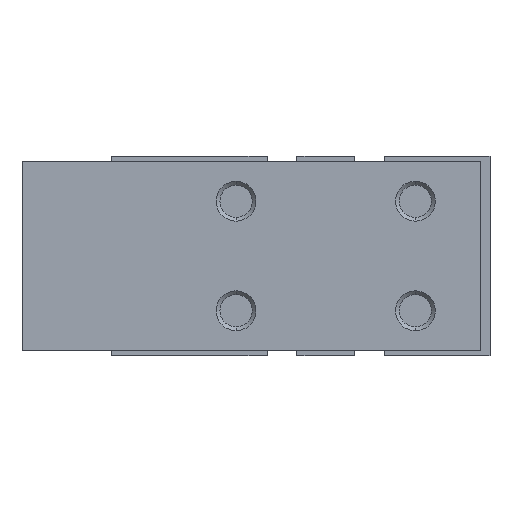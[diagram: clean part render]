
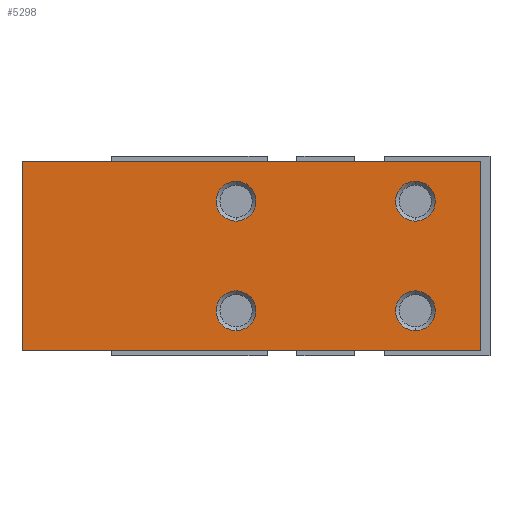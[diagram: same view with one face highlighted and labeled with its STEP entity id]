
A CAD part, left-side view. The second image highlights one B-rep face of the part: STEP entity #5298.
In plain terms, the highlighted planar face has unit normal (-1, 0, 0).
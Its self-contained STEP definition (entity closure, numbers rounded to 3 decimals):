
#53 = ORIENTED_EDGE ( 'NONE', *, *, #450, .F. ) ;
#129 = FACE_BOUND ( 'NONE', #4435, .T. ) ;
#159 = FACE_BOUND ( 'NONE', #2431, .T. ) ;
#177 = CIRCLE ( 'NONE', #2860, 2. ) ;
#191 = EDGE_CURVE ( 'NONE', #383, #5401, #3360, .T. ) ;
#216 = ORIENTED_EDGE ( 'NONE', *, *, #3319, .F. ) ;
#221 = FACE_BOUND ( 'NONE', #1981, .T. ) ;
#233 = CIRCLE ( 'NONE', #4375, 2. ) ;
#265 = AXIS2_PLACEMENT_3D ( 'NONE', #2717, #5567, #5929 ) ;
#383 = VERTEX_POINT ( 'NONE', #4783 ) ;
#450 = EDGE_CURVE ( 'NONE', #2389, #1737, #177, .T. ) ;
#542 = CIRCLE ( 'NONE', #4687, 2. ) ;
#591 = VECTOR ( 'NONE', #613, 1000. ) ;
#599 = CARTESIAN_POINT ( 'NONE',  ( -11.5, 9., -5.5 ) ) ;
#613 = DIRECTION ( 'NONE',  ( 0., 0., -1. ) ) ;
#743 = CIRCLE ( 'NONE', #265, 2. ) ;
#764 = VERTEX_POINT ( 'NONE', #5549 ) ;
#826 = AXIS2_PLACEMENT_3D ( 'NONE', #1092, #5198, #2893 ) ;
#861 = AXIS2_PLACEMENT_3D ( 'NONE', #4309, #3027, #3908 ) ;
#1062 = DIRECTION ( 'NONE',  ( 0., 1., 0. ) ) ;
#1076 = CARTESIAN_POINT ( 'NONE',  ( -11.5, 30.5, -9.5 ) ) ;
#1092 = CARTESIAN_POINT ( 'NONE',  ( -11.5, 9., 5.5 ) ) ;
#1186 = VECTOR ( 'NONE', #2971, 1000. ) ;
#1296 = VECTOR ( 'NONE', #4712, 1000. ) ;
#1309 = LINE ( 'NONE', #4085, #4047 ) ;
#1471 = DIRECTION ( 'NONE',  ( 0., 0., 1. ) ) ;
#1478 = CARTESIAN_POINT ( 'NONE',  ( -11.5, -9., -5.5 ) ) ;
#1485 = EDGE_CURVE ( 'NONE', #5218, #3727, #5164, .T. ) ;
#1511 = DIRECTION ( 'NONE',  ( 1., 0., 0. ) ) ;
#1737 = VERTEX_POINT ( 'NONE', #5038 ) ;
#1981 = EDGE_LOOP ( 'NONE', ( #2830, #2757 ) ) ;
#1985 = DIRECTION ( 'NONE',  ( 0., 0., 1. ) ) ;
#2050 = CARTESIAN_POINT ( 'NONE',  ( -11.5, 30.5, 9.5 ) ) ;
#2056 = CARTESIAN_POINT ( 'NONE',  ( -11.5, 30.5, 9.5 ) ) ;
#2071 = EDGE_CURVE ( 'NONE', #3814, #764, #3339, .T. ) ;
#2186 = CARTESIAN_POINT ( 'NONE',  ( -11.5, 9., -7.5 ) ) ;
#2349 = DIRECTION ( 'NONE',  ( -1., 0., 0. ) ) ;
#2372 = DIRECTION ( 'NONE',  ( -1., 0., 0. ) ) ;
#2389 = VERTEX_POINT ( 'NONE', #3015 ) ;
#2429 = DIRECTION ( 'NONE',  ( -1., 0., 0. ) ) ;
#2431 = EDGE_LOOP ( 'NONE', ( #2982, #53 ) ) ;
#2553 = VERTEX_POINT ( 'NONE', #5436 ) ;
#2625 = EDGE_CURVE ( 'NONE', #3727, #5218, #233, .T. ) ;
#2674 = ORIENTED_EDGE ( 'NONE', *, *, #3568, .T. ) ;
#2695 = ORIENTED_EDGE ( 'NONE', *, *, #1485, .F. ) ;
#2717 = CARTESIAN_POINT ( 'NONE',  ( -11.5, -9., 5.5 ) ) ;
#2733 = DIRECTION ( 'NONE',  ( -1., 0., 0. ) ) ;
#2757 = ORIENTED_EDGE ( 'NONE', *, *, #2071, .F. ) ;
#2798 = EDGE_CURVE ( 'NONE', #2553, #5414, #4254, .T. ) ;
#2830 = ORIENTED_EDGE ( 'NONE', *, *, #5957, .F. ) ;
#2860 = AXIS2_PLACEMENT_3D ( 'NONE', #1478, #4194, #5167 ) ;
#2861 = FACE_OUTER_BOUND ( 'NONE', #3978, .T. ) ;
#2893 = DIRECTION ( 'NONE',  ( 0., 0., 1. ) ) ;
#2971 = DIRECTION ( 'NONE',  ( 0., -1., 0. ) ) ;
#2982 = ORIENTED_EDGE ( 'NONE', *, *, #4425, .F. ) ;
#3015 = CARTESIAN_POINT ( 'NONE',  ( -11.5, -9., -7.5 ) ) ;
#3027 = DIRECTION ( 'NONE',  ( -1., 0., 0. ) ) ;
#3319 = EDGE_CURVE ( 'NONE', #3546, #4609, #4826, .T. ) ;
#3325 = AXIS2_PLACEMENT_3D ( 'NONE', #5082, #2349, #4197 ) ;
#3339 = CIRCLE ( 'NONE', #4697, 2. ) ;
#3360 = LINE ( 'NONE', #1076, #1186 ) ;
#3368 = ORIENTED_EDGE ( 'NONE', *, *, #4081, .F. ) ;
#3398 = CARTESIAN_POINT ( 'NONE',  ( -11.5, -9., 7.5 ) ) ;
#3546 = VERTEX_POINT ( 'NONE', #4630 ) ;
#3549 = ORIENTED_EDGE ( 'NONE', *, *, #191, .T. ) ;
#3568 = EDGE_CURVE ( 'NONE', #2553, #383, #1309, .T. ) ;
#3725 = CARTESIAN_POINT ( 'NONE',  ( -11.5, 9., 5.5 ) ) ;
#3727 = VERTEX_POINT ( 'NONE', #4452 ) ;
#3763 = PLANE ( 'NONE',  #5368 ) ;
#3814 = VERTEX_POINT ( 'NONE', #2186 ) ;
#3908 = DIRECTION ( 'NONE',  ( 0., 0., 1. ) ) ;
#3913 = CIRCLE ( 'NONE', #3325, 2. ) ;
#3978 = EDGE_LOOP ( 'NONE', ( #3549, #3368, #5427, #2674 ) ) ;
#4047 = VECTOR ( 'NONE', #4173, 1000. ) ;
#4081 = EDGE_CURVE ( 'NONE', #5414, #5401, #5163, .T. ) ;
#4085 = CARTESIAN_POINT ( 'NONE',  ( -11.5, 30.5, 9.5 ) ) ;
#4173 = DIRECTION ( 'NONE',  ( 0., 0., -1. ) ) ;
#4194 = DIRECTION ( 'NONE',  ( -1., 0., 0. ) ) ;
#4197 = DIRECTION ( 'NONE',  ( 0., 0., 1. ) ) ;
#4254 = LINE ( 'NONE', #2050, #1296 ) ;
#4309 = CARTESIAN_POINT ( 'NONE',  ( -11.5, -9., 5.5 ) ) ;
#4324 = CARTESIAN_POINT ( 'NONE',  ( -11.5, -15.5, 9.5 ) ) ;
#4375 = AXIS2_PLACEMENT_3D ( 'NONE', #3725, #2733, #1471 ) ;
#4380 = CARTESIAN_POINT ( 'NONE',  ( -11.5, -15.5, 9.5 ) ) ;
#4425 = EDGE_CURVE ( 'NONE', #1737, #2389, #542, .T. ) ;
#4435 = EDGE_LOOP ( 'NONE', ( #5974, #216 ) ) ;
#4452 = CARTESIAN_POINT ( 'NONE',  ( -11.5, 9., 3.5 ) ) ;
#4550 = ORIENTED_EDGE ( 'NONE', *, *, #2625, .F. ) ;
#4609 = VERTEX_POINT ( 'NONE', #3398 ) ;
#4630 = CARTESIAN_POINT ( 'NONE',  ( -11.5, -9., 3.5 ) ) ;
#4687 = AXIS2_PLACEMENT_3D ( 'NONE', #4772, #2372, #1985 ) ;
#4697 = AXIS2_PLACEMENT_3D ( 'NONE', #599, #2429, #5118 ) ;
#4712 = DIRECTION ( 'NONE',  ( 0., -1., 0. ) ) ;
#4772 = CARTESIAN_POINT ( 'NONE',  ( -11.5, -9., -5.5 ) ) ;
#4782 = CARTESIAN_POINT ( 'NONE',  ( -11.5, -15.5, -9.5 ) ) ;
#4783 = CARTESIAN_POINT ( 'NONE',  ( -11.5, 30.5, -9.5 ) ) ;
#4823 = EDGE_CURVE ( 'NONE', #4609, #3546, #743, .T. ) ;
#4826 = CIRCLE ( 'NONE', #861, 2. ) ;
#4996 = CARTESIAN_POINT ( 'NONE',  ( -11.5, 9., 7.5 ) ) ;
#5038 = CARTESIAN_POINT ( 'NONE',  ( -11.5, -9., -3.5 ) ) ;
#5082 = CARTESIAN_POINT ( 'NONE',  ( -11.5, 9., -5.5 ) ) ;
#5118 = DIRECTION ( 'NONE',  ( 0., 0., 1. ) ) ;
#5163 = LINE ( 'NONE', #4324, #591 ) ;
#5164 = CIRCLE ( 'NONE', #826, 2. ) ;
#5167 = DIRECTION ( 'NONE',  ( 0., 0., 1. ) ) ;
#5198 = DIRECTION ( 'NONE',  ( -1., 0., 0. ) ) ;
#5218 = VERTEX_POINT ( 'NONE', #4996 ) ;
#5260 = FACE_BOUND ( 'NONE', #5656, .T. ) ;
#5298 = ADVANCED_FACE ( 'NONE', ( #2861, #221, #129, #159, #5260 ), #3763, .F. ) ;
#5368 = AXIS2_PLACEMENT_3D ( 'NONE', #2056, #1511, #1062 ) ;
#5401 = VERTEX_POINT ( 'NONE', #4782 ) ;
#5414 = VERTEX_POINT ( 'NONE', #4380 ) ;
#5427 = ORIENTED_EDGE ( 'NONE', *, *, #2798, .F. ) ;
#5436 = CARTESIAN_POINT ( 'NONE',  ( -11.5, 30.5, 9.5 ) ) ;
#5549 = CARTESIAN_POINT ( 'NONE',  ( -11.5, 9., -3.5 ) ) ;
#5567 = DIRECTION ( 'NONE',  ( -1., 0., 0. ) ) ;
#5656 = EDGE_LOOP ( 'NONE', ( #2695, #4550 ) ) ;
#5929 = DIRECTION ( 'NONE',  ( 0., 0., 1. ) ) ;
#5957 = EDGE_CURVE ( 'NONE', #764, #3814, #3913, .T. ) ;
#5974 = ORIENTED_EDGE ( 'NONE', *, *, #4823, .F. ) ;
